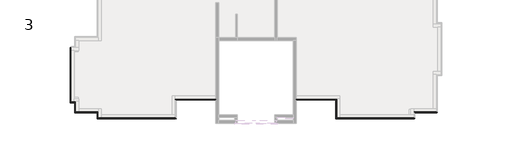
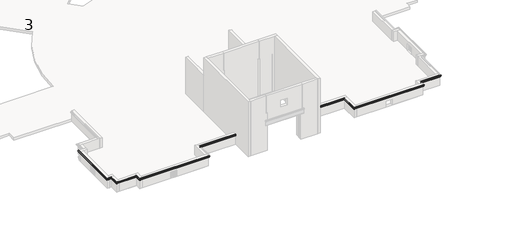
# One storey, part 7 of 12: 1 proxy.
"""IFC4 building model written with IfcOpenShell, lengths in millimetres."""

from ifc_helpers import new_model, si_unit, frame, origin, place, context, project, spatial, polyline, circle_curve, ellipse_curve, element, save
from ifc_brep_helpers import plane_surface, cylinder_surface, revolved_surface, advanced_brep

model = new_model("IFC4")

# Units and contexts
model_context = context("Model", 3, world=origin())
ifc_project = project(units=[si_unit("LENGTHUNIT", "METRE", prefix="MILLI")], contexts=[model_context])

# Site, building, storey
site = spatial("IfcSite", under=ifc_project)
building = spatial("IfcBuilding", under=site)
storey = spatial("IfcBuildingStorey", under=building, Name="3", Elevation=3581.4)

# Proxy
placement = place(None, origin())
element("IfcBuildingElementProxy", 1, Name="Cornice 3", ObjectType="Cornice 3", at=placement, inside=storey, context=model_context, shape_type="AdvancedBrep", body=[
    advanced_brep(
    [(-21342.5950906, -15278.6193311, 4572.0), (-21266.3950906, -15202.4193311, 4572.0), (-21266.3950906, -15202.4193311, 4419.6), (-21317.1950906, -15253.2193311, 4419.6), (-21317.1950906, -15253.2193311, 4438.65), (-21317.1950906, -15253.2193311, 4457.7), (-21317.1950906, -15253.2193311, 4483.1), (-21324.3388406, -15260.3630811, 4483.1), (-21342.5950906, -15278.6193311, 4512.5009114), (-21342.5950906, -15278.6193311, 4527.55), (-14941.7950906, -15278.6193311, 4572.0), (-14941.7950906, -15278.6193311, 4527.55), (-14941.7950906, -15278.6193311, 4512.5009114), (-14960.0513406, -15260.3630811, 4483.1), (-14967.1950906, -15253.2193311, 4483.1), (-14967.1950906, -15253.2193311, 4457.7), (-14967.1950906, -15253.2193311, 4438.65), (-14967.1950906, -15253.2193311, 4419.6), (-15017.9950906, -15202.4193311, 4419.6), (-15017.9950906, -15202.4193311, 4572.0)],
    [
        (0, 1),
        (1, 2),
        (2, 3),
        (3, 4),
        (4, 5, ellipse_curve(frame((-21317.1950906, -15253.2193311, 4448.175), z_axis=(-0.707106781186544, 0.7071067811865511, 0.0), x_axis=(-0.7071067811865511, -0.707106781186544, 0.0)), 13.4703842, 9.525)),
        (5, 6),
        (6, 7),
        (7, 8, ellipse_curve(frame((-21345.851489, -15281.8757296, 4490.1103895), z_axis=(0.707106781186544, -0.7071067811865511, 0.0), x_axis=(0.7071067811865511, 0.707106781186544, 0.0)), 31.9981126, 22.6260824)),
        (8, 9),
        (9, 0, ellipse_curve(frame((-21342.5950906, -15278.6193311, 4549.775), z_axis=(-0.707106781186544, 0.7071067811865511, 0.0), x_axis=(-0.7071067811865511, -0.707106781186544, 0.0)), 31.4308964, 22.225)),
        (10, 11, ellipse_curve(frame((-14941.7950906, -15278.6193311, 4549.775), z_axis=(0.7071067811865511, 0.707106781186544, 0.0), x_axis=(-0.7071067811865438, 0.7071067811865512, 0.0)), 31.4308964, 22.225)),
        (11, 12),
        (12, 13, ellipse_curve(frame((-14938.5386921, -15281.8757296, 4490.1103895), z_axis=(-0.7071067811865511, -0.707106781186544, 0.0), x_axis=(0.7071067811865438, -0.7071067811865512, 0.0)), 31.9981126, 22.6260824)),
        (13, 14),
        (14, 15),
        (15, 16, ellipse_curve(frame((-14967.1950906, -15253.2193311, 4448.175), z_axis=(0.7071067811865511, 0.707106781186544, 0.0), x_axis=(-0.7071067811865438, 0.7071067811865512, 0.0)), 13.4703842, 9.525)),
        (16, 17),
        (17, 18),
        (18, 19),
        (19, 10),
        (0, 10),
        (19, 1),
        (18, 2),
        (17, 3),
        (16, 4),
        (15, 5),
        (14, 6),
        (13, 7),
        (12, 8),
        (11, 9),
    ],
    [
        plane_surface(frame((-21266.3950906, -15202.4193311, 4114.8), z_axis=(-0.707106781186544, 0.7071067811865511, 0.0), x_axis=(0.7071067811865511, 0.707106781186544, 0.0))),
        plane_surface(frame((-15017.9950906, -15202.4193311, 4114.8), z_axis=(0.7071067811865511, 0.707106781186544, 0.0), x_axis=(-0.707106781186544, 0.7071067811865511, 0.0))),
        plane_surface(frame((-21342.5950906, -15278.6193311, 4572.0), z_axis=(0.0, 0.0, 1.0), x_axis=(1.0, 0.0, 0.0))),
        plane_surface(frame((-21266.3950906, -15202.4193311, 4572.0), z_axis=(0.0, 1.0, 0.0), x_axis=(1.0, 0.0, 0.0))),
        plane_surface(frame((-21266.3950906, -15202.4193311, 4419.6), z_axis=(0.0, 0.0, -1.0), x_axis=(1.0, 0.0, 0.0))),
        plane_surface(frame((-21317.1950906, -15253.2193311, 4419.6), z_axis=(0.0, -1.0, 0.0), x_axis=(1.0, 0.0, 0.0))),
        cylinder_surface(frame((-21266.3950906, -15253.2193311, 4448.175), z_axis=(-1.0, 0.0, 0.0), x_axis=(0.0, 1.0, 0.0)), 9.525),
        plane_surface(frame((-21317.1950906, -15253.2193311, 4457.7), z_axis=(0.0, -1.0, 0.0), x_axis=(1.0, 0.0, 0.0))),
        plane_surface(frame((-21317.1950906, -15253.2193311, 4483.1), z_axis=(0.0, 0.0, -1.0), x_axis=(1.0, 0.0, 0.0))),
        revolved_surface(polyline([(-14915.91260969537, -15259.2496472, 4490.1103895), (-21368.47757140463, -15259.2496472, 4490.1103895)]), (-21266.3950906, -15281.8757296, 4490.1103895), (1.0, 0.0, 0.0)),
        plane_surface(frame((-21342.5950906, -15278.6193311, 4512.5009114), z_axis=(0.0, -1.0, 0.0), x_axis=(1.0, 0.0, 0.0))),
        cylinder_surface(frame((-21266.3950906, -15278.6193311, 4549.775), z_axis=(-1.0, 0.0, 0.0), x_axis=(0.0, 1.0, 0.0)), 22.225),
    ],
    [
        (0, [[1, 2, 3, 4, 5, 6, 7, 8, 9, 10]]),
        (1, [[11, 12, 13, 14, 15, 16, 17, 18, 19, 20]]),
        (2, [[-1, 21, -20, 22]]),
        (3, [[-2, -22, -19, 23]]),
        (4, [[-3, -23, -18, 24]]),
        (5, [[-4, -24, -17, 25]]),
        (6, [[-5, -25, -16, 26]]),
        (7, [[-6, -26, -15, 27]]),
        (8, [[-7, -27, -14, 28]]),
        (9, [[-8, -28, -13, 29]]),
        (10, [[-9, -29, -12, 30]]),
        (11, [[-10, -30, -11, -21]]),
    ],
),
    advanced_brep(
    [(-23171.3950906, -14783.3193311, 4572.0), (-23095.1950906, -14707.1193311, 4572.0), (-23095.1950906, -14707.1193311, 4419.6), (-23145.9950906, -14757.9193311, 4419.6), (-23145.9950906, -14757.9193311, 4438.65), (-23145.9950906, -14757.9193311, 4457.7), (-23145.9950906, -14757.9193311, 4483.1), (-23153.1388406, -14765.0630811, 4483.1), (-23171.3950906, -14783.3193311, 4512.5009114), (-23171.3950906, -14783.3193311, 4527.55), (-21342.5950906, -14783.3193311, 4572.0), (-21342.5950906, -14783.3193311, 4527.55), (-21342.5950906, -14783.3193311, 4512.5009114), (-21324.3388406, -14765.0630811, 4483.1), (-21317.1950906, -14757.9193311, 4483.1), (-21317.1950906, -14757.9193311, 4457.7), (-21317.1950906, -14757.9193311, 4438.65), (-21317.1950906, -14757.9193311, 4419.6), (-21266.3950906, -14707.1193311, 4419.6), (-21266.3950906, -14707.1193311, 4572.0)],
    [
        (0, 1),
        (1, 2),
        (2, 3),
        (3, 4),
        (4, 5, ellipse_curve(frame((-23145.9950906, -14757.9193311, 4448.175), z_axis=(-0.707106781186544, 0.7071067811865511, 0.0), x_axis=(-0.707106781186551, -0.7071067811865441, 0.0)), 13.4703842, 9.525)),
        (5, 6),
        (6, 7),
        (7, 8, ellipse_curve(frame((-23174.651489, -14786.5757296, 4490.1103895), z_axis=(0.707106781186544, -0.7071067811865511, 0.0), x_axis=(0.707106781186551, 0.7071067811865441, 0.0)), 31.9981126, 22.6260824)),
        (8, 9),
        (9, 0, ellipse_curve(frame((-23171.3950906, -14783.3193311, 4549.775), z_axis=(-0.707106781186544, 0.7071067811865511, 0.0), x_axis=(-0.707106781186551, -0.7071067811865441, 0.0)), 31.4308964, 22.225)),
        (10, 11, ellipse_curve(frame((-21342.5950906, -14783.3193311, 4549.775), z_axis=(0.707106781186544, -0.7071067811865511, 0.0), x_axis=(-0.707106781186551, -0.7071067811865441, 0.0)), 31.4308964, 22.225)),
        (11, 12),
        (12, 13, ellipse_curve(frame((-21345.851489, -14786.5757296, 4490.1103895), z_axis=(-0.707106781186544, 0.7071067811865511, 0.0), x_axis=(0.707106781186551, 0.7071067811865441, 0.0)), 31.9981126, 22.6260824)),
        (13, 14),
        (14, 15),
        (15, 16, ellipse_curve(frame((-21317.1950906, -14757.9193311, 4448.175), z_axis=(0.707106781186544, -0.7071067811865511, 0.0), x_axis=(-0.707106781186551, -0.7071067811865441, 0.0)), 13.4703842, 9.525)),
        (16, 17),
        (17, 18),
        (18, 19),
        (19, 10),
        (0, 10),
        (19, 1),
        (18, 2),
        (17, 3),
        (16, 4),
        (15, 5),
        (14, 6),
        (13, 7),
        (12, 8),
        (11, 9),
    ],
    [
        plane_surface(frame((-23095.1950906, -14707.1193311, 4114.8), z_axis=(-0.707106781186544, 0.7071067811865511, 0.0), x_axis=(0.7071067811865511, 0.707106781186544, 0.0))),
        plane_surface(frame((-21266.3950906, -14707.1193311, 4724.4), z_axis=(0.707106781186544, -0.7071067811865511, 0.0), x_axis=(-0.7071067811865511, -0.707106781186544, 0.0))),
        plane_surface(frame((-23171.3950906, -14783.3193311, 4572.0), z_axis=(0.0, 0.0, 1.0), x_axis=(1.0, 0.0, 0.0))),
        plane_surface(frame((-23095.1950906, -14707.1193311, 4572.0), z_axis=(0.0, 1.0, 0.0), x_axis=(1.0, 0.0, 0.0))),
        plane_surface(frame((-23095.1950906, -14707.1193311, 4419.6), z_axis=(0.0, 0.0, -1.0), x_axis=(1.0, 0.0, 0.0))),
        plane_surface(frame((-23145.9950906, -14757.9193311, 4419.6), z_axis=(0.0, -1.0, 0.0), x_axis=(1.0, 0.0, 0.0))),
        cylinder_surface(frame((-23095.1950906, -14757.9193311, 4448.175), z_axis=(-1.0, 0.0, 0.0), x_axis=(0.0, 1.0, 0.0)), 9.525),
        plane_surface(frame((-23145.9950906, -14757.9193311, 4457.7), z_axis=(0.0, -1.0, 0.0), x_axis=(1.0, 0.0, 0.0))),
        plane_surface(frame((-23145.9950906, -14757.9193311, 4483.1), z_axis=(0.0, 0.0, -1.0), x_axis=(1.0, 0.0, 0.0))),
        revolved_surface(polyline([(-21323.22540659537, -14763.9496472, 4490.1103895), (-23197.27757140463, -14763.9496472, 4490.1103895)]), (-23095.1950906, -14786.5757296, 4490.1103895), (1.0, 0.0, 0.0)),
        plane_surface(frame((-23171.3950906, -14783.3193311, 4512.5009114), z_axis=(0.0, -1.0, 0.0), x_axis=(1.0, 0.0, 0.0))),
        cylinder_surface(frame((-23095.1950906, -14783.3193311, 4549.775), z_axis=(-1.0, 0.0, 0.0), x_axis=(0.0, 1.0, 0.0)), 22.225),
    ],
    [
        (0, [[1, 2, 3, 4, 5, 6, 7, 8, 9, 10]]),
        (1, [[11, 12, 13, 14, 15, 16, 17, 18, 19, 20]]),
        (2, [[-1, 21, -20, 22]]),
        (3, [[-2, -22, -19, 23]]),
        (4, [[-3, -23, -18, 24]]),
        (5, [[-4, -24, -17, 25]]),
        (6, [[-5, -25, -16, 26]]),
        (7, [[-6, -26, -15, 27]]),
        (8, [[-7, -27, -14, 28]]),
        (9, [[-8, -28, -13, 29]]),
        (10, [[-9, -29, -12, 30]]),
        (11, [[-10, -30, -11, -21]]),
    ],
),
    advanced_brep(
    [(-21342.5950906, -14783.3193311, 4572.0), (-21266.3950906, -14707.1193311, 4572.0), (-21266.3950906, -14707.1193311, 4419.6), (-21317.1950906, -14757.9193311, 4419.6), (-21317.1950906, -14757.9193311, 4438.65), (-21317.1950906, -14757.9193311, 4457.7), (-21317.1950906, -14757.9193311, 4483.1), (-21324.3388406, -14765.0630811, 4483.1), (-21342.5950906, -14783.3193311, 4512.5009114), (-21342.5950906, -14783.3193311, 4527.55), (-21342.5950906, -15278.6193311, 4572.0), (-21342.5950906, -15278.6193311, 4527.55), (-21342.5950906, -15278.6193311, 4512.5009114), (-21324.3388406, -15260.3630811, 4483.1), (-21317.1950906, -15253.2193311, 4483.1), (-21317.1950906, -15253.2193311, 4457.7), (-21317.1950906, -15253.2193311, 4438.65), (-21317.1950906, -15253.2193311, 4419.6), (-21266.3950906, -15202.4193311, 4419.6), (-21266.3950906, -15202.4193311, 4572.0)],
    [
        (0, 1),
        (1, 2),
        (2, 3),
        (3, 4),
        (4, 5, ellipse_curve(frame((-21317.1950906, -14757.9193311, 4448.175), z_axis=(-0.707106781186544, 0.7071067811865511, 0.0), x_axis=(0.7071067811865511, 0.7071067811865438, 0.0)), 13.4703842, 9.525)),
        (5, 6),
        (6, 7),
        (7, 8, ellipse_curve(frame((-21345.851489, -14786.5757296, 4490.1103895), z_axis=(0.707106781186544, -0.7071067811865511, 0.0), x_axis=(-0.7071067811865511, -0.7071067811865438, 0.0)), 31.9981126, 22.6260824)),
        (8, 9),
        (9, 0, ellipse_curve(frame((-21342.5950906, -14783.3193311, 4549.775), z_axis=(-0.707106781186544, 0.7071067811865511, 0.0), x_axis=(0.7071067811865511, 0.7071067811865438, 0.0)), 31.4308964, 22.225)),
        (10, 11, ellipse_curve(frame((-21342.5950906, -15278.6193311, 4549.775), z_axis=(0.707106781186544, -0.7071067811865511, 0.0), x_axis=(0.7071067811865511, 0.7071067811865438, 0.0)), 31.4308964, 22.225)),
        (11, 12),
        (12, 13, ellipse_curve(frame((-21345.851489, -15281.8757296, 4490.1103895), z_axis=(-0.707106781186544, 0.7071067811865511, 0.0), x_axis=(-0.7071067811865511, -0.7071067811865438, 0.0)), 31.9981126, 22.6260824)),
        (13, 14),
        (14, 15),
        (15, 16, ellipse_curve(frame((-21317.1950906, -15253.2193311, 4448.175), z_axis=(0.707106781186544, -0.7071067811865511, 0.0), x_axis=(0.7071067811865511, 0.7071067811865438, 0.0)), 13.4703842, 9.525)),
        (16, 17),
        (17, 18),
        (18, 19),
        (19, 10),
        (0, 10),
        (19, 1),
        (18, 2),
        (17, 3),
        (16, 4),
        (15, 5),
        (14, 6),
        (13, 7),
        (12, 8),
        (11, 9),
    ],
    [
        plane_surface(frame((-21266.3950906, -14707.1193311, 4724.4), z_axis=(-0.707106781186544, 0.7071067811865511, 0.0), x_axis=(-0.7071067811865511, -0.707106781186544, 0.0))),
        plane_surface(frame((-21266.3950906, -15202.4193311, 4114.8), z_axis=(0.707106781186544, -0.7071067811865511, 0.0), x_axis=(0.7071067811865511, 0.707106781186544, 0.0))),
        plane_surface(frame((-21342.5950906, -14783.3193311, 4572.0), z_axis=(0.0, 0.0, 1.0), x_axis=(0.0, -1.0, 0.0))),
        plane_surface(frame((-21266.3950906, -14707.1193311, 4572.0), z_axis=(1.0, 0.0, 0.0), x_axis=(0.0, -1.0, 0.0))),
        plane_surface(frame((-21266.3950906, -14707.1193311, 4419.6), z_axis=(0.0, 0.0, -1.0), x_axis=(0.0, -1.0, 0.0))),
        plane_surface(frame((-21317.1950906, -14757.9193311, 4419.6), z_axis=(-1.0, 0.0, 0.0), x_axis=(0.0, -1.0, 0.0))),
        cylinder_surface(frame((-21317.1950906, -14707.1193311, 4448.175), z_axis=(0.0, 1.0, 0.0), x_axis=(1.0, 0.0, 0.0)), 9.525),
        plane_surface(frame((-21317.1950906, -14757.9193311, 4457.7), z_axis=(-1.0, 0.0, 0.0), x_axis=(0.0, -1.0, 0.0))),
        plane_surface(frame((-21317.1950906, -14757.9193311, 4483.1), z_axis=(0.0, 0.0, -1.0), x_axis=(0.0, -1.0, 0.0))),
        revolved_surface(polyline([(-21323.225406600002, -15304.501812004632, 4490.1103895), (-21323.225406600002, -14763.949647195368, 4490.1103895)]), (-21345.851489, -14707.1193311, 4490.1103895), (0.0, -1.0, 0.0)),
        plane_surface(frame((-21342.5950906, -14783.3193311, 4512.5009114), z_axis=(-1.0, 0.0, 0.0), x_axis=(0.0, -1.0, 0.0))),
        cylinder_surface(frame((-21342.5950906, -14707.1193311, 4549.775), z_axis=(0.0, 1.0, 0.0), x_axis=(1.0, 0.0, 0.0)), 22.225),
    ],
    [
        (0, [[1, 2, 3, 4, 5, 6, 7, 8, 9, 10]]),
        (1, [[11, 12, 13, 14, 15, 16, 17, 18, 19, 20]]),
        (2, [[-1, 21, -20, 22]]),
        (3, [[-2, -22, -19, 23]]),
        (4, [[-3, -23, -18, 24]]),
        (5, [[-4, -24, -17, 25]]),
        (6, [[-5, -25, -16, 26]]),
        (7, [[-6, -26, -15, 27]]),
        (8, [[-7, -27, -14, 28]]),
        (9, [[-8, -28, -13, 29]]),
        (10, [[-9, -29, -12, 30]]),
        (11, [[-10, -30, -11, -21]]),
    ],
),
    advanced_brep(
    [(-23171.3950906, -13963.3681763, 4572.0), (-23095.1950906, -13887.1681763, 4572.0), (-23095.1950906, -13887.1681763, 4419.6), (-23145.9950906, -13937.9681763, 4419.6), (-23145.9950906, -13937.9681763, 4438.65), (-23145.9950906, -13937.9681763, 4457.7), (-23145.9950906, -13937.9681763, 4483.1), (-23153.1388406, -13945.1119263, 4483.1), (-23171.3950906, -13963.3681763, 4512.5009114), (-23171.3950906, -13963.3681763, 4527.55), (-23171.3950906, -14783.3193311, 4572.0), (-23171.3950906, -14783.3193311, 4527.55), (-23171.3950906, -14783.3193311, 4512.5009114), (-23153.1388406, -14765.0630811, 4483.1), (-23145.9950906, -14757.9193311, 4483.1), (-23145.9950906, -14757.9193311, 4457.7), (-23145.9950906, -14757.9193311, 4438.65), (-23145.9950906, -14757.9193311, 4419.6), (-23095.1950906, -14707.1193311, 4419.6), (-23095.1950906, -14707.1193311, 4572.0)],
    [
        (0, 1),
        (1, 2),
        (2, 3),
        (3, 4),
        (4, 5, ellipse_curve(frame((-23145.9950906, -13937.9681763, 4448.175), z_axis=(-0.707106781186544, 0.7071067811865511, 0.0), x_axis=(0.7071067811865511, 0.7071067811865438, 0.0)), 13.4703842, 9.525)),
        (5, 6),
        (6, 7),
        (7, 8, ellipse_curve(frame((-23174.651489, -13966.6245748, 4490.1103895), z_axis=(0.707106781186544, -0.7071067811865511, 0.0), x_axis=(-0.7071067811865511, -0.7071067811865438, 0.0)), 31.9981126, 22.6260824)),
        (8, 9),
        (9, 0, ellipse_curve(frame((-23171.3950906, -13963.3681763, 4549.775), z_axis=(-0.707106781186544, 0.7071067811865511, 0.0), x_axis=(0.7071067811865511, 0.7071067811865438, 0.0)), 31.4308964, 22.225)),
        (10, 11, ellipse_curve(frame((-23171.3950906, -14783.3193311, 4549.775), z_axis=(0.707106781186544, -0.7071067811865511, 0.0), x_axis=(0.7071067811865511, 0.7071067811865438, 0.0)), 31.4308964, 22.225)),
        (11, 12),
        (12, 13, ellipse_curve(frame((-23174.651489, -14786.5757296, 4490.1103895), z_axis=(-0.707106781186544, 0.7071067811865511, 0.0), x_axis=(-0.7071067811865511, -0.7071067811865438, 0.0)), 31.9981126, 22.6260824)),
        (13, 14),
        (14, 15),
        (15, 16, ellipse_curve(frame((-23145.9950906, -14757.9193311, 4448.175), z_axis=(0.707106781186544, -0.7071067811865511, 0.0), x_axis=(0.7071067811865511, 0.7071067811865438, 0.0)), 13.4703842, 9.525)),
        (16, 17),
        (17, 18),
        (18, 19),
        (19, 10),
        (0, 10),
        (19, 1),
        (18, 2),
        (17, 3),
        (16, 4),
        (15, 5),
        (14, 6),
        (13, 7),
        (12, 8),
        (11, 9),
    ],
    [
        plane_surface(frame((-23095.1950906, -13887.1681763, 4724.4), z_axis=(-0.707106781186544, 0.7071067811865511, 0.0), x_axis=(-0.7071067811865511, -0.707106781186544, 0.0))),
        plane_surface(frame((-23095.1950906, -14707.1193311, 4114.8), z_axis=(0.707106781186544, -0.7071067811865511, 0.0), x_axis=(0.7071067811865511, 0.707106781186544, 0.0))),
        plane_surface(frame((-23171.3950906, -13963.3681763, 4572.0), z_axis=(0.0, 0.0, 1.0), x_axis=(0.0, -1.0, 0.0))),
        plane_surface(frame((-23095.1950906, -13887.1681763, 4572.0), z_axis=(1.0, 0.0, 0.0), x_axis=(0.0, -1.0, 0.0))),
        plane_surface(frame((-23095.1950906, -13887.1681763, 4419.6), z_axis=(0.0, 0.0, -1.0), x_axis=(0.0, -1.0, 0.0))),
        plane_surface(frame((-23145.9950906, -13937.9681763, 4419.6), z_axis=(-1.0, 0.0, 0.0), x_axis=(0.0, -1.0, 0.0))),
        cylinder_surface(frame((-23145.9950906, -13887.1681763, 4448.175), z_axis=(0.0, 1.0, 0.0), x_axis=(1.0, 0.0, 0.0)), 9.525),
        plane_surface(frame((-23145.9950906, -13937.9681763, 4457.7), z_axis=(-1.0, 0.0, 0.0), x_axis=(0.0, -1.0, 0.0))),
        plane_surface(frame((-23145.9950906, -13937.9681763, 4483.1), z_axis=(0.0, 0.0, -1.0), x_axis=(0.0, -1.0, 0.0))),
        revolved_surface(polyline([(-23152.0254066, -14809.20181200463, 4490.1103895), (-23152.0254066, -13943.998492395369, 4490.1103895)]), (-23174.651489, -13887.1681763, 4490.1103895), (0.0, -1.0, 0.0)),
        plane_surface(frame((-23171.3950906, -13963.3681763, 4512.5009114), z_axis=(-1.0, 0.0, 0.0), x_axis=(0.0, -1.0, 0.0))),
        cylinder_surface(frame((-23171.3950906, -13887.1681763, 4549.775), z_axis=(0.0, 1.0, 0.0), x_axis=(1.0, 0.0, 0.0)), 22.225),
    ],
    [
        (0, [[1, 2, 3, 4, 5, 6, 7, 8, 9, 10]]),
        (1, [[11, 12, 13, 14, 15, 16, 17, 18, 19, 20]]),
        (2, [[-1, 21, -20, 22]]),
        (3, [[-2, -22, -19, 23]]),
        (4, [[-3, -23, -18, 24]]),
        (5, [[-4, -24, -17, 25]]),
        (6, [[-5, -25, -16, 26]]),
        (7, [[-6, -26, -15, 27]]),
        (8, [[-7, -27, -14, 28]]),
        (9, [[-8, -28, -13, 29]]),
        (10, [[-9, -29, -12, 30]]),
        (11, [[-10, -30, -11, -21]]),
    ],
),
    advanced_brep(
    [(-23552.5608197, -13963.3681763, 4572.0), (-23476.3608197, -13887.1681763, 4572.0), (-23476.3608197, -13887.1681763, 4419.6), (-23527.1608197, -13937.9681763, 4419.6), (-23527.1608197, -13937.9681763, 4438.65), (-23527.1608197, -13937.9681763, 4457.7), (-23527.1608197, -13937.9681763, 4483.1), (-23534.3045697, -13945.1119263, 4483.1), (-23552.5608197, -13963.3681763, 4512.5009114), (-23552.5608197, -13963.3681763, 4527.55), (-23171.3950906, -13963.3681763, 4572.0), (-23171.3950906, -13963.3681763, 4527.55), (-23171.3950906, -13963.3681763, 4512.5009114), (-23153.1388406, -13945.1119263, 4483.1), (-23145.9950906, -13937.9681763, 4483.1), (-23145.9950906, -13937.9681763, 4457.7), (-23145.9950906, -13937.9681763, 4438.65), (-23145.9950906, -13937.9681763, 4419.6), (-23095.1950906, -13887.1681763, 4419.6), (-23095.1950906, -13887.1681763, 4572.0)],
    [
        (0, 1),
        (1, 2),
        (2, 3),
        (3, 4),
        (4, 5, ellipse_curve(frame((-23527.1608197, -13937.9681763, 4448.175), z_axis=(-0.707106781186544, 0.7071067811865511, 0.0), x_axis=(-0.7071067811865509, -0.7071067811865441, 0.0)), 13.4703842, 9.525)),
        (5, 6),
        (6, 7),
        (7, 8, ellipse_curve(frame((-23555.8172182, -13966.6245748, 4490.1103895), z_axis=(0.707106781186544, -0.7071067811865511, 0.0), x_axis=(0.7071067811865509, 0.7071067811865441, 0.0)), 31.9981126, 22.6260824)),
        (8, 9),
        (9, 0, ellipse_curve(frame((-23552.5608197, -13963.3681763, 4549.775), z_axis=(-0.707106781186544, 0.7071067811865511, 0.0), x_axis=(-0.7071067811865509, -0.7071067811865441, 0.0)), 31.4308964, 22.225)),
        (10, 11, ellipse_curve(frame((-23171.3950906, -13963.3681763, 4549.775), z_axis=(0.707106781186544, -0.7071067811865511, 0.0), x_axis=(-0.7071067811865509, -0.7071067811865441, 0.0)), 31.4308964, 22.225)),
        (11, 12),
        (12, 13, ellipse_curve(frame((-23174.651489, -13966.6245748, 4490.1103895), z_axis=(-0.707106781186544, 0.7071067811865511, 0.0), x_axis=(0.7071067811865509, 0.7071067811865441, 0.0)), 31.9981126, 22.6260824)),
        (13, 14),
        (14, 15),
        (15, 16, ellipse_curve(frame((-23145.9950906, -13937.9681763, 4448.175), z_axis=(0.707106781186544, -0.7071067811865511, 0.0), x_axis=(-0.7071067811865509, -0.7071067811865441, 0.0)), 13.4703842, 9.525)),
        (16, 17),
        (17, 18),
        (18, 19),
        (19, 10),
        (0, 10),
        (19, 1),
        (18, 2),
        (17, 3),
        (16, 4),
        (15, 5),
        (14, 6),
        (13, 7),
        (12, 8),
        (11, 9),
    ],
    [
        plane_surface(frame((-23476.3608197, -13887.1681763, 4114.8), z_axis=(-0.707106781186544, 0.7071067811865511, 0.0), x_axis=(0.7071067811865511, 0.707106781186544, 0.0))),
        plane_surface(frame((-23095.1950906, -13887.1681763, 4724.4), z_axis=(0.707106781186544, -0.7071067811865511, 0.0), x_axis=(-0.7071067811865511, -0.707106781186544, 0.0))),
        plane_surface(frame((-23552.5608197, -13963.3681763, 4572.0), z_axis=(0.0, 0.0, 1.0), x_axis=(1.0, 0.0, 0.0))),
        plane_surface(frame((-23476.3608197, -13887.1681763, 4572.0), z_axis=(0.0, 1.0, 0.0), x_axis=(1.0, 0.0, 0.0))),
        plane_surface(frame((-23476.3608197, -13887.1681763, 4419.6), z_axis=(0.0, 0.0, -1.0), x_axis=(1.0, 0.0, 0.0))),
        plane_surface(frame((-23527.1608197, -13937.9681763, 4419.6), z_axis=(0.0, -1.0, 0.0), x_axis=(1.0, 0.0, 0.0))),
        cylinder_surface(frame((-23476.3608197, -13937.9681763, 4448.175), z_axis=(-1.0, 0.0, 0.0), x_axis=(0.0, 1.0, 0.0)), 9.525),
        plane_surface(frame((-23527.1608197, -13937.9681763, 4457.7), z_axis=(0.0, -1.0, 0.0), x_axis=(1.0, 0.0, 0.0))),
        plane_surface(frame((-23527.1608197, -13937.9681763, 4483.1), z_axis=(0.0, 0.0, -1.0), x_axis=(1.0, 0.0, 0.0))),
        revolved_surface(polyline([(-23152.02540659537, -13943.9984924, 4490.1103895), (-23578.44330060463, -13943.9984924, 4490.1103895)]), (-23476.3608197, -13966.6245748, 4490.1103895), (1.0, 0.0, 0.0)),
        plane_surface(frame((-23552.5608197, -13963.3681763, 4512.5009114), z_axis=(0.0, -1.0, 0.0), x_axis=(1.0, 0.0, 0.0))),
        cylinder_surface(frame((-23476.3608197, -13963.3681763, 4549.775), z_axis=(-1.0, 0.0, 0.0), x_axis=(0.0, 1.0, 0.0)), 22.225),
    ],
    [
        (0, [[1, 2, 3, 4, 5, 6, 7, 8, 9, 10]]),
        (1, [[11, 12, 13, 14, 15, 16, 17, 18, 19, 20]]),
        (2, [[-1, 21, -20, 22]]),
        (3, [[-2, -22, -19, 23]]),
        (4, [[-3, -23, -18, 24]]),
        (5, [[-4, -24, -17, 25]]),
        (6, [[-5, -25, -16, 26]]),
        (7, [[-6, -26, -15, 27]]),
        (8, [[-7, -27, -14, 28]]),
        (9, [[-8, -28, -13, 29]]),
        (10, [[-9, -29, -12, 30]]),
        (11, [[-10, -30, -11, -21]]),
    ],
),
    advanced_brep(
    [(-23552.5608197, -9467.5681763, 4572.0), (-23476.3608197, -9467.5681763, 4572.0), (-23476.3608197, -9467.5681763, 4419.6), (-23527.1608197, -9467.5681763, 4419.6), (-23527.1608197, -9467.5681763, 4438.65), (-23527.1608197, -9467.5681763, 4457.7), (-23527.1608197, -9467.5681763, 4483.1), (-23534.3045697, -9467.5681763, 4483.1), (-23552.5608197, -9467.5681763, 4512.5009114), (-23552.5608197, -9467.5681763, 4527.55), (-23552.5608197, -13963.3681763, 4572.0), (-23552.5608197, -13963.3681763, 4527.55), (-23552.5608197, -13963.3681763, 4512.5009114), (-23534.3045697, -13945.1119263, 4483.1), (-23527.1608197, -13937.9681763, 4483.1), (-23527.1608197, -13937.9681763, 4457.7), (-23527.1608197, -13937.9681763, 4438.65), (-23527.1608197, -13937.9681763, 4419.6), (-23476.3608197, -13887.1681763, 4419.6), (-23476.3608197, -13887.1681763, 4572.0)],
    [
        (0, 1),
        (1, 2),
        (2, 3),
        (3, 4),
        (4, 5, circle_curve(frame((-23527.1608197, -9467.5681763, 4448.175), z_axis=(0.0, 1.0, 0.0), x_axis=(1.0, 0.0, 0.0)), 9.525)),
        (5, 6),
        (6, 7),
        (7, 8, circle_curve(frame((-23555.8172182, -9467.5681763, 4490.1103895), z_axis=(0.0, -1.0, 0.0), x_axis=(1.0, 0.0, 0.0)), 22.6260824)),
        (8, 9),
        (9, 0, circle_curve(frame((-23552.5608197, -9467.5681763, 4549.775), z_axis=(0.0, 1.0, 0.0), x_axis=(1.0, 0.0, 0.0)), 22.225)),
        (10, 11, ellipse_curve(frame((-23552.5608197, -13963.3681763, 4549.775), z_axis=(0.707106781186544, -0.7071067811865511, 0.0), x_axis=(0.7071067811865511, 0.7071067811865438, 0.0)), 31.4308964, 22.225)),
        (11, 12),
        (12, 13, ellipse_curve(frame((-23555.8172182, -13966.6245748, 4490.1103895), z_axis=(-0.707106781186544, 0.7071067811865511, 0.0), x_axis=(-0.7071067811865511, -0.7071067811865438, 0.0)), 31.9981126, 22.6260824)),
        (13, 14),
        (14, 15),
        (15, 16, ellipse_curve(frame((-23527.1608197, -13937.9681763, 4448.175), z_axis=(0.707106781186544, -0.7071067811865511, 0.0), x_axis=(0.7071067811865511, 0.7071067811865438, 0.0)), 13.4703842, 9.525)),
        (16, 17),
        (17, 18),
        (18, 19),
        (19, 10),
        (0, 10),
        (19, 1),
        (18, 2),
        (17, 3),
        (16, 4),
        (15, 5),
        (14, 6),
        (13, 7),
        (12, 8),
        (11, 9),
    ],
    [
        plane_surface(frame((-23649.3290268, -9467.5681763, 4419.6), z_axis=(0.0, 1.0, 0.0), x_axis=(0.0, 0.0, -1.0))),
        plane_surface(frame((-23476.3608197, -13887.1681763, 4114.8), z_axis=(0.707106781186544, -0.7071067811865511, 0.0), x_axis=(0.7071067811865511, 0.707106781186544, 0.0))),
        plane_surface(frame((-23552.5608197, -9467.5681763, 4572.0), z_axis=(0.0, 0.0, 1.0), x_axis=(0.0, -1.0, 0.0))),
        plane_surface(frame((-23476.3608197, -9467.5681763, 4572.0), z_axis=(1.0, 0.0, 0.0), x_axis=(0.0, -1.0, 0.0))),
        plane_surface(frame((-23476.3608197, -9467.5681763, 4419.6), z_axis=(0.0, 0.0, -1.0), x_axis=(0.0, -1.0, 0.0))),
        plane_surface(frame((-23527.1608197, -9467.5681763, 4419.6), z_axis=(-1.0, 0.0, 0.0), x_axis=(0.0, -1.0, 0.0))),
        cylinder_surface(frame((-23527.1608197, -9467.5681763, 4448.175), z_axis=(0.0, 1.0, 0.0), x_axis=(1.0, 0.0, 0.0)), 9.525),
        plane_surface(frame((-23527.1608197, -9467.5681763, 4457.7), z_axis=(-1.0, 0.0, 0.0), x_axis=(0.0, -1.0, 0.0))),
        plane_surface(frame((-23527.1608197, -9467.5681763, 4483.1), z_axis=(0.0, 0.0, -1.0), x_axis=(0.0, -1.0, 0.0))),
        revolved_surface(polyline([(-23533.191135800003, -13989.25065720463, 4490.1103895), (-23533.191135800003, -9467.5681763, 4490.1103895)]), (-23555.8172182, -9467.5681763, 4490.1103895), (0.0, -1.0, 0.0)),
        plane_surface(frame((-23552.5608197, -9467.5681763, 4512.5009114), z_axis=(-1.0, 0.0, 0.0), x_axis=(0.0, -1.0, 0.0))),
        cylinder_surface(frame((-23552.5608197, -9467.5681763, 4549.775), z_axis=(0.0, 1.0, 0.0), x_axis=(1.0, 0.0, 0.0)), 22.225),
    ],
    [
        (0, [[1, 2, 3, 4, 5, 6, 7, 8, 9, 10]]),
        (1, [[11, 12, 13, 14, 15, 16, 17, 18, 19, 20]]),
        (2, [[-1, 21, -20, 22]]),
        (3, [[-2, -22, -19, 23]]),
        (4, [[-3, -23, -18, 24]]),
        (5, [[-4, -24, -17, 25]]),
        (6, [[-5, -25, -16, 26]]),
        (7, [[-6, -26, -15, 27]]),
        (8, [[-7, -27, -14, 28]]),
        (9, [[-8, -28, -13, 29]]),
        (10, [[-9, -29, -12, 30]]),
        (11, [[-10, -30, -11, -21]]),
    ],
),
    advanced_brep(
    [(-14941.7950906, -13753.8181763, 4572.0), (-15017.9950906, -13677.6181763, 4572.0), (-15017.9950906, -13677.6181763, 4419.6), (-14967.1950906, -13728.4181763, 4419.6), (-14967.1950906, -13728.4181763, 4438.65), (-14967.1950906, -13728.4181763, 4457.7), (-14967.1950906, -13728.4181763, 4483.1), (-14960.0513406, -13735.5619263, 4483.1), (-14941.7950906, -13753.8181763, 4512.5009114), (-14941.7950906, -13753.8181763, 4527.55), (-11665.1950906, -13753.8181763, 4572.0), (-11665.1950906, -13753.8181763, 4527.55), (-11665.1950906, -13753.8181763, 4512.5009114), (-11665.1950906, -13735.5619263, 4483.1), (-11665.1950906, -13728.4181763, 4483.1), (-11665.1950906, -13728.4181763, 4457.7), (-11665.1950906, -13728.4181763, 4438.65), (-11665.1950906, -13728.4181763, 4419.6), (-11665.1950906, -13677.6181763, 4419.6), (-11665.1950906, -13677.6181763, 4572.0)],
    [
        (0, 1),
        (1, 2),
        (2, 3),
        (3, 4),
        (4, 5, ellipse_curve(frame((-14967.1950906, -13728.4181763, 4448.175), z_axis=(-0.7071067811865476, -0.7071067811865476, 0.0), x_axis=(-0.7071067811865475, 0.7071067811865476, 0.0)), 13.4703842, 9.525)),
        (5, 6),
        (6, 7),
        (7, 8, ellipse_curve(frame((-14938.5386921, -13757.0745748, 4490.1103895), z_axis=(0.7071067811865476, 0.7071067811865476, 0.0), x_axis=(0.7071067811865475, -0.7071067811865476, 0.0)), 31.9981126, 22.6260824)),
        (8, 9),
        (9, 0, ellipse_curve(frame((-14941.7950906, -13753.8181763, 4549.775), z_axis=(-0.7071067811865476, -0.7071067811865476, 0.0), x_axis=(-0.7071067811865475, 0.7071067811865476, 0.0)), 31.4308964, 22.225)),
        (10, 11, circle_curve(frame((-11665.1950906, -13753.8181763, 4549.775), z_axis=(1.0, 0.0, 0.0), x_axis=(0.0, 1.0, 0.0)), 22.225)),
        (11, 12),
        (12, 13, circle_curve(frame((-11665.1950906, -13757.0745748, 4490.1103895), z_axis=(-1.0, 0.0, 0.0), x_axis=(0.0, 1.0, 0.0)), 22.6260824)),
        (13, 14),
        (14, 15),
        (15, 16, circle_curve(frame((-11665.1950906, -13728.4181763, 4448.175), z_axis=(1.0, 0.0, 0.0), x_axis=(0.0, 1.0, 0.0)), 9.525)),
        (16, 17),
        (17, 18),
        (18, 19),
        (19, 10),
        (0, 10),
        (19, 1),
        (18, 2),
        (17, 3),
        (16, 4),
        (15, 5),
        (14, 6),
        (13, 7),
        (12, 8),
        (11, 9),
    ],
    [
        plane_surface(frame((-15017.9950906, -13677.6181763, 4724.4), z_axis=(-0.7071067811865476, -0.7071067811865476, 0.0), x_axis=(0.7071067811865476, -0.7071067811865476, 0.0))),
        plane_surface(frame((-11665.1950906, -13677.6181763, 4246.631793), z_axis=(1.0, 0.0, 0.0), x_axis=(0.0, 1.0, 0.0))),
        plane_surface(frame((-14941.7950906, -13753.8181763, 4572.0), z_axis=(0.0, 0.0, 1.0), x_axis=(1.0, 0.0, 0.0))),
        plane_surface(frame((-15017.9950906, -13677.6181763, 4572.0), z_axis=(0.0, 1.0, 0.0), x_axis=(1.0, 0.0, 0.0))),
        plane_surface(frame((-15017.9950906, -13677.6181763, 4419.6), z_axis=(0.0, 0.0, -1.0), x_axis=(1.0, 0.0, 0.0))),
        plane_surface(frame((-14967.1950906, -13728.4181763, 4419.6), z_axis=(0.0, -1.0, 0.0), x_axis=(1.0, 0.0, 0.0))),
        cylinder_surface(frame((-15017.9950906, -13728.4181763, 4448.175), z_axis=(-1.0, 0.0, 0.0), x_axis=(0.0, 1.0, 0.0)), 9.525),
        plane_surface(frame((-14967.1950906, -13728.4181763, 4457.7), z_axis=(0.0, -1.0, 0.0), x_axis=(1.0, 0.0, 0.0))),
        plane_surface(frame((-14967.1950906, -13728.4181763, 4483.1), z_axis=(0.0, 0.0, -1.0), x_axis=(1.0, 0.0, 0.0))),
        revolved_surface(polyline([(-11665.1950906, -13734.4484924, 4490.1103895), (-14961.164774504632, -13734.4484924, 4490.1103895)]), (-15017.9950906, -13757.0745748, 4490.1103895), (1.0, 0.0, 0.0)),
        plane_surface(frame((-14941.7950906, -13753.8181763, 4512.5009114), z_axis=(0.0, -1.0, 0.0), x_axis=(1.0, 0.0, 0.0))),
        cylinder_surface(frame((-15017.9950906, -13753.8181763, 4549.775), z_axis=(-1.0, 0.0, 0.0), x_axis=(0.0, 1.0, 0.0)), 22.225),
    ],
    [
        (0, [[1, 2, 3, 4, 5, 6, 7, 8, 9, 10]]),
        (1, [[11, 12, 13, 14, 15, 16, 17, 18, 19, 20]]),
        (2, [[-1, 21, -20, 22]]),
        (3, [[-2, -22, -19, 23]]),
        (4, [[-3, -23, -18, 24]]),
        (5, [[-4, -24, -17, 25]]),
        (6, [[-5, -25, -16, 26]]),
        (7, [[-6, -26, -15, 27]]),
        (8, [[-7, -27, -14, 28]]),
        (9, [[-8, -28, -13, 29]]),
        (10, [[-9, -29, -12, 30]]),
        (11, [[-10, -30, -11, -21]]),
    ],
),
    advanced_brep(
    [(-5111.9950906, -13753.8181763, 4572.0), (-5111.9950906, -13677.6181763, 4572.0), (-5111.9950906, -13677.6181763, 4419.6), (-5111.9950906, -13728.4181763, 4419.6), (-5111.9950906, -13728.4181763, 4438.65), (-5111.9950906, -13728.4181763, 4457.7), (-5111.9950906, -13728.4181763, 4483.1), (-5111.9950906, -13735.5619263, 4483.1), (-5111.9950906, -13753.8181763, 4512.5009114), (-5111.9950906, -13753.8181763, 4527.55), (-1835.3950906, -13753.8181763, 4572.0), (-1835.3950906, -13753.8181763, 4527.55), (-1835.3950906, -13753.8181763, 4512.5009114), (-1817.1388406, -13735.5619263, 4483.1), (-1809.9950906, -13728.4181763, 4483.1), (-1809.9950906, -13728.4181763, 4457.7), (-1809.9950906, -13728.4181763, 4438.65), (-1809.9950906, -13728.4181763, 4419.6), (-1759.1950906, -13677.6181763, 4419.6), (-1759.1950906, -13677.6181763, 4572.0)],
    [
        (0, 1),
        (1, 2),
        (2, 3),
        (3, 4),
        (4, 5, circle_curve(frame((-5111.9950906, -13728.4181763, 4448.175), z_axis=(-1.0, 0.0, 0.0), x_axis=(0.0, 1.0, 0.0)), 9.525)),
        (5, 6),
        (6, 7),
        (7, 8, circle_curve(frame((-5111.9950906, -13757.0745748, 4490.1103895), z_axis=(1.0, 0.0, 0.0), x_axis=(0.0, 1.0, 0.0)), 22.6260824)),
        (8, 9),
        (9, 0, circle_curve(frame((-5111.9950906, -13753.8181763, 4549.775), z_axis=(-1.0, 0.0, 0.0), x_axis=(0.0, 1.0, 0.0)), 22.225)),
        (10, 11, ellipse_curve(frame((-1835.3950906, -13753.8181763, 4549.775), z_axis=(0.7071067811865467, -0.7071067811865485, 0.0), x_axis=(-0.7071067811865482, -0.7071067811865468, 0.0)), 31.4308964, 22.225)),
        (11, 12),
        (12, 13, ellipse_curve(frame((-1838.651489, -13757.0745748, 4490.1103895), z_axis=(-0.7071067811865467, 0.7071067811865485, 0.0), x_axis=(0.7071067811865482, 0.7071067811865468, 0.0)), 31.9981126, 22.6260824)),
        (13, 14),
        (14, 15),
        (15, 16, ellipse_curve(frame((-1809.9950906, -13728.4181763, 4448.175), z_axis=(0.7071067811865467, -0.7071067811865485, 0.0), x_axis=(-0.7071067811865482, -0.7071067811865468, 0.0)), 13.4703842, 9.525)),
        (16, 17),
        (17, 18),
        (18, 19),
        (19, 10),
        (0, 10),
        (19, 1),
        (18, 2),
        (17, 3),
        (16, 4),
        (15, 5),
        (14, 6),
        (13, 7),
        (12, 8),
        (11, 9),
    ],
    [
        plane_surface(frame((-5111.9950906, -13677.6181763, 4246.631793), z_axis=(-1.0, 0.0, 0.0), x_axis=(0.0, 1.0, 0.0))),
        plane_surface(frame((-1759.1950906, -13677.6181763, 4724.4), z_axis=(0.7071067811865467, -0.7071067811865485, 0.0), x_axis=(-0.7071067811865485, -0.7071067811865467, 0.0))),
        plane_surface(frame((-5111.9950906, -13753.8181763, 4572.0), z_axis=(0.0, 0.0, 1.0), x_axis=(1.0, 0.0, 0.0))),
        plane_surface(frame((-5111.9950906, -13677.6181763, 4572.0), z_axis=(0.0, 1.0, 0.0), x_axis=(1.0, 0.0, 0.0))),
        plane_surface(frame((-5111.9950906, -13677.6181763, 4419.6), z_axis=(0.0, 0.0, -1.0), x_axis=(1.0, 0.0, 0.0))),
        plane_surface(frame((-5111.9950906, -13728.4181763, 4419.6), z_axis=(0.0, -1.0, 0.0), x_axis=(1.0, 0.0, 0.0))),
        cylinder_surface(frame((-5111.9950906, -13728.4181763, 4448.175), z_axis=(-1.0, 0.0, 0.0), x_axis=(0.0, 1.0, 0.0)), 9.525),
        plane_surface(frame((-5111.9950906, -13728.4181763, 4457.7), z_axis=(0.0, -1.0, 0.0), x_axis=(1.0, 0.0, 0.0))),
        plane_surface(frame((-5111.9950906, -13728.4181763, 4483.1), z_axis=(0.0, 0.0, -1.0), x_axis=(1.0, 0.0, 0.0))),
        revolved_surface(polyline([(-1816.025406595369, -13734.4484924, 4490.1103895), (-5111.9950906, -13734.4484924, 4490.1103895)]), (-5111.9950906, -13757.0745748, 4490.1103895), (1.0, 0.0, 0.0)),
        plane_surface(frame((-5111.9950906, -13753.8181763, 4512.5009114), z_axis=(0.0, -1.0, 0.0), x_axis=(1.0, 0.0, 0.0))),
        cylinder_surface(frame((-5111.9950906, -13753.8181763, 4549.775), z_axis=(-1.0, 0.0, 0.0), x_axis=(0.0, 1.0, 0.0)), 22.225),
    ],
    [
        (0, [[1, 2, 3, 4, 5, 6, 7, 8, 9, 10]]),
        (1, [[11, 12, 13, 14, 15, 16, 17, 18, 19, 20]]),
        (2, [[-1, 21, -20, 22]]),
        (3, [[-2, -22, -19, 23]]),
        (4, [[-3, -23, -18, 24]]),
        (5, [[-4, -24, -17, 25]]),
        (6, [[-5, -25, -16, 26]]),
        (7, [[-6, -26, -15, 27]]),
        (8, [[-7, -27, -14, 28]]),
        (9, [[-8, -28, -13, 29]]),
        (10, [[-9, -29, -12, 30]]),
        (11, [[-10, -30, -11, -21]]),
    ],
),
    advanced_brep(
    [(-1835.3950906, -15278.6193311, 4572.0), (-1759.1950906, -15202.4193311, 4572.0), (-1759.1950906, -15202.4193311, 4419.6), (-1809.9950906, -15253.2193311, 4419.6), (-1809.9950906, -15253.2193311, 4438.65), (-1809.9950906, -15253.2193311, 4457.7), (-1809.9950906, -15253.2193311, 4483.1), (-1817.1388406, -15260.3630811, 4483.1), (-1835.3950906, -15278.6193311, 4512.5009114), (-1835.3950906, -15278.6193311, 4527.55), (4565.4049094, -15278.6193311, 4572.0), (4565.4049094, -15278.6193311, 4527.55), (4565.4049094, -15278.6193311, 4512.5009114), (4547.1486594, -15260.3630811, 4483.1), (4540.0049094, -15253.2193311, 4483.1), (4540.0049094, -15253.2193311, 4457.7), (4540.0049094, -15253.2193311, 4438.65), (4540.0049094, -15253.2193311, 4419.6), (4489.2049094, -15202.4193311, 4419.6), (4489.2049094, -15202.4193311, 4572.0)],
    [
        (0, 1),
        (1, 2),
        (2, 3),
        (3, 4),
        (4, 5, ellipse_curve(frame((-1809.9950906, -15253.2193311, 4448.175), z_axis=(-0.7071067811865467, 0.7071067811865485, 0.0), x_axis=(-0.7071067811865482, -0.7071067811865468, 0.0)), 13.4703842, 9.525)),
        (5, 6),
        (6, 7),
        (7, 8, ellipse_curve(frame((-1838.651489, -15281.8757296, 4490.1103895), z_axis=(0.7071067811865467, -0.7071067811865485, 0.0), x_axis=(0.7071067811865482, 0.7071067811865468, 0.0)), 31.9981126, 22.6260824)),
        (8, 9),
        (9, 0, ellipse_curve(frame((-1835.3950906, -15278.6193311, 4549.775), z_axis=(-0.7071067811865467, 0.7071067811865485, 0.0), x_axis=(-0.7071067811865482, -0.7071067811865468, 0.0)), 31.4308964, 22.225)),
        (10, 11, ellipse_curve(frame((4565.4049094, -15278.6193311, 4549.775), z_axis=(0.7071067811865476, 0.7071067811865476, 0.0), x_axis=(-0.7071067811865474, 0.7071067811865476, 0.0)), 31.4308964, 22.225)),
        (11, 12),
        (12, 13, ellipse_curve(frame((4568.6613079, -15281.8757296, 4490.1103895), z_axis=(-0.7071067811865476, -0.7071067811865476, 0.0), x_axis=(0.7071067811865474, -0.7071067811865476, 0.0)), 31.9981126, 22.6260824)),
        (13, 14),
        (14, 15),
        (15, 16, ellipse_curve(frame((4540.0049094, -15253.2193311, 4448.175), z_axis=(0.7071067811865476, 0.7071067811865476, 0.0), x_axis=(-0.7071067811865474, 0.7071067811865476, 0.0)), 13.4703842, 9.525)),
        (16, 17),
        (17, 18),
        (18, 19),
        (19, 10),
        (0, 10),
        (19, 1),
        (18, 2),
        (17, 3),
        (16, 4),
        (15, 5),
        (14, 6),
        (13, 7),
        (12, 8),
        (11, 9),
    ],
    [
        plane_surface(frame((-1759.1950906, -15202.4193311, 4114.8), z_axis=(-0.7071067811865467, 0.7071067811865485, 0.0), x_axis=(0.7071067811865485, 0.7071067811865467, 0.0))),
        plane_surface(frame((4489.2049094, -15202.4193311, 4114.8), z_axis=(0.7071067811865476, 0.7071067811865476, 0.0), x_axis=(-0.7071067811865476, 0.7071067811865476, 0.0))),
        plane_surface(frame((-1835.3950906, -15278.6193311, 4572.0), z_axis=(0.0, 0.0, 1.0), x_axis=(1.0, 0.0, 0.0))),
        plane_surface(frame((-1759.1950906, -15202.4193311, 4572.0), z_axis=(0.0, 1.0, 0.0), x_axis=(1.0, 0.0, 0.0))),
        plane_surface(frame((-1759.1950906, -15202.4193311, 4419.6), z_axis=(0.0, 0.0, -1.0), x_axis=(1.0, 0.0, 0.0))),
        plane_surface(frame((-1809.9950906, -15253.2193311, 4419.6), z_axis=(0.0, -1.0, 0.0), x_axis=(1.0, 0.0, 0.0))),
        cylinder_surface(frame((-1759.1950906, -15253.2193311, 4448.175), z_axis=(-1.0, 0.0, 0.0), x_axis=(0.0, 1.0, 0.0)), 9.525),
        plane_surface(frame((-1809.9950906, -15253.2193311, 4457.7), z_axis=(0.0, -1.0, 0.0), x_axis=(1.0, 0.0, 0.0))),
        plane_surface(frame((-1809.9950906, -15253.2193311, 4483.1), z_axis=(0.0, 0.0, -1.0), x_axis=(1.0, 0.0, 0.0))),
        revolved_surface(polyline([(4591.28739030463, -15259.2496472, 4490.1103895), (-1861.2775714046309, -15259.2496472, 4490.1103895)]), (-1759.1950906, -15281.8757296, 4490.1103895), (1.0, 0.0, 0.0)),
        plane_surface(frame((-1835.3950906, -15278.6193311, 4512.5009114), z_axis=(0.0, -1.0, 0.0), x_axis=(1.0, 0.0, 0.0))),
        cylinder_surface(frame((-1759.1950906, -15278.6193311, 4549.775), z_axis=(-1.0, 0.0, 0.0), x_axis=(0.0, 1.0, 0.0)), 22.225),
    ],
    [
        (0, [[1, 2, 3, 4, 5, 6, 7, 8, 9, 10]]),
        (1, [[11, 12, 13, 14, 15, 16, 17, 18, 19, 20]]),
        (2, [[-1, 21, -20, 22]]),
        (3, [[-2, -22, -19, 23]]),
        (4, [[-3, -23, -18, 24]]),
        (5, [[-4, -24, -17, 25]]),
        (6, [[-5, -25, -16, 26]]),
        (7, [[-6, -26, -15, 27]]),
        (8, [[-7, -27, -14, 28]]),
        (9, [[-8, -28, -13, 29]]),
        (10, [[-9, -29, -12, 30]]),
        (11, [[-10, -30, -11, -21]]),
    ],
),
    advanced_brep(
    [(-1835.3950906, -13753.8181763, 4572.0), (-1759.1950906, -13677.6181763, 4572.0), (-1759.1950906, -13677.6181763, 4419.6), (-1809.9950906, -13728.4181763, 4419.6), (-1809.9950906, -13728.4181763, 4438.65), (-1809.9950906, -13728.4181763, 4457.7), (-1809.9950906, -13728.4181763, 4483.1), (-1817.1388406, -13735.5619263, 4483.1), (-1835.3950906, -13753.8181763, 4512.5009114), (-1835.3950906, -13753.8181763, 4527.55), (-1835.3950906, -15278.6193311, 4572.0), (-1835.3950906, -15278.6193311, 4527.55), (-1835.3950906, -15278.6193311, 4512.5009114), (-1817.1388406, -15260.3630811, 4483.1), (-1809.9950906, -15253.2193311, 4483.1), (-1809.9950906, -15253.2193311, 4457.7), (-1809.9950906, -15253.2193311, 4438.65), (-1809.9950906, -15253.2193311, 4419.6), (-1759.1950906, -15202.4193311, 4419.6), (-1759.1950906, -15202.4193311, 4572.0)],
    [
        (0, 1),
        (1, 2),
        (2, 3),
        (3, 4),
        (4, 5, ellipse_curve(frame((-1809.9950906, -13728.4181763, 4448.175), z_axis=(-0.7071067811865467, 0.7071067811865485, 0.0), x_axis=(0.7071067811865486, 0.7071067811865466, 0.0)), 13.4703842, 9.525)),
        (5, 6),
        (6, 7),
        (7, 8, ellipse_curve(frame((-1838.651489, -13757.0745748, 4490.1103895), z_axis=(0.7071067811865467, -0.7071067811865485, 0.0), x_axis=(-0.7071067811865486, -0.7071067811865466, 0.0)), 31.9981126, 22.6260824)),
        (8, 9),
        (9, 0, ellipse_curve(frame((-1835.3950906, -13753.8181763, 4549.775), z_axis=(-0.7071067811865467, 0.7071067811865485, 0.0), x_axis=(0.7071067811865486, 0.7071067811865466, 0.0)), 31.4308964, 22.225)),
        (10, 11, ellipse_curve(frame((-1835.3950906, -15278.6193311, 4549.775), z_axis=(0.7071067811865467, -0.7071067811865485, 0.0), x_axis=(0.7071067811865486, 0.7071067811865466, 0.0)), 31.4308964, 22.225)),
        (11, 12),
        (12, 13, ellipse_curve(frame((-1838.651489, -15281.8757296, 4490.1103895), z_axis=(-0.7071067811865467, 0.7071067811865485, 0.0), x_axis=(-0.7071067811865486, -0.7071067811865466, 0.0)), 31.9981126, 22.6260824)),
        (13, 14),
        (14, 15),
        (15, 16, ellipse_curve(frame((-1809.9950906, -15253.2193311, 4448.175), z_axis=(0.7071067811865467, -0.7071067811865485, 0.0), x_axis=(0.7071067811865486, 0.7071067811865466, 0.0)), 13.4703842, 9.525)),
        (16, 17),
        (17, 18),
        (18, 19),
        (19, 10),
        (0, 10),
        (19, 1),
        (18, 2),
        (17, 3),
        (16, 4),
        (15, 5),
        (14, 6),
        (13, 7),
        (12, 8),
        (11, 9),
    ],
    [
        plane_surface(frame((-1759.1950906, -13677.6181763, 4724.4), z_axis=(-0.7071067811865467, 0.7071067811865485, 0.0), x_axis=(-0.7071067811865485, -0.7071067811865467, 0.0))),
        plane_surface(frame((-1759.1950906, -15202.4193311, 4114.8), z_axis=(0.7071067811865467, -0.7071067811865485, 0.0), x_axis=(0.7071067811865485, 0.7071067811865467, 0.0))),
        plane_surface(frame((-1835.3950906, -13753.8181763, 4572.0), z_axis=(0.0, 0.0, 1.0), x_axis=(0.0, -1.0, 0.0))),
        plane_surface(frame((-1759.1950906, -13677.6181763, 4572.0), z_axis=(1.0, 0.0, 0.0), x_axis=(0.0, -1.0, 0.0))),
        plane_surface(frame((-1759.1950906, -13677.6181763, 4419.6), z_axis=(0.0, 0.0, -1.0), x_axis=(0.0, -1.0, 0.0))),
        plane_surface(frame((-1809.9950906, -13728.4181763, 4419.6), z_axis=(-1.0, 0.0, 0.0), x_axis=(0.0, -1.0, 0.0))),
        cylinder_surface(frame((-1809.9950906, -13677.6181763, 4448.175), z_axis=(0.0, 1.0, 0.0), x_axis=(1.0, 0.0, 0.0)), 9.525),
        plane_surface(frame((-1809.9950906, -13728.4181763, 4457.7), z_axis=(-1.0, 0.0, 0.0), x_axis=(0.0, -1.0, 0.0))),
        plane_surface(frame((-1809.9950906, -13728.4181763, 4483.1), z_axis=(0.0, 0.0, -1.0), x_axis=(0.0, -1.0, 0.0))),
        revolved_surface(polyline([(-1816.0254066, -15304.501812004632, 4490.1103895), (-1816.0254066, -13734.44849239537, 4490.1103895)]), (-1838.651489, -13677.6181763, 4490.1103895), (0.0, -1.0, 0.0)),
        plane_surface(frame((-1835.3950906, -13753.8181763, 4512.5009114), z_axis=(-1.0, 0.0, 0.0), x_axis=(0.0, -1.0, 0.0))),
        cylinder_surface(frame((-1835.3950906, -13677.6181763, 4549.775), z_axis=(0.0, 1.0, 0.0), x_axis=(1.0, 0.0, 0.0)), 22.225),
    ],
    [
        (0, [[1, 2, 3, 4, 5, 6, 7, 8, 9, 10]]),
        (1, [[11, 12, 13, 14, 15, 16, 17, 18, 19, 20]]),
        (2, [[-1, 21, -20, 22]]),
        (3, [[-2, -22, -19, 23]]),
        (4, [[-3, -23, -18, 24]]),
        (5, [[-4, -24, -17, 25]]),
        (6, [[-5, -25, -16, 26]]),
        (7, [[-6, -26, -15, 27]]),
        (8, [[-7, -27, -14, 28]]),
        (9, [[-8, -28, -13, 29]]),
        (10, [[-9, -29, -12, 30]]),
        (11, [[-10, -30, -11, -21]]),
    ],
),
    advanced_brep(
    [(4565.4049094, -14783.3193311, 4572.0), (4489.2049094, -14707.1193311, 4572.0), (4489.2049094, -14707.1193311, 4419.6), (4540.0049094, -14757.9193311, 4419.6), (4540.0049094, -14757.9193311, 4438.65), (4540.0049094, -14757.9193311, 4457.7), (4540.0049094, -14757.9193311, 4483.1), (4547.1486594, -14765.0630811, 4483.1), (4565.4049094, -14783.3193311, 4512.5009114), (4565.4049094, -14783.3193311, 4527.55), (6393.2878641, -14783.3193311, 4572.0), (6393.2878641, -14783.3193311, 4527.55), (6393.2878641, -14783.3193311, 4512.5009114), (6375.0316141, -14765.0630811, 4483.1), (6367.8878641, -14757.9193311, 4483.1), (6367.8878641, -14757.9193311, 4457.7), (6367.8878641, -14757.9193311, 4438.65), (6367.8878641, -14757.9193311, 4419.6), (6317.0878641, -14707.1193311, 4419.6), (6317.0878641, -14707.1193311, 4572.0)],
    [
        (0, 1),
        (1, 2),
        (2, 3),
        (3, 4),
        (4, 5, ellipse_curve(frame((4540.0049094, -14757.9193311, 4448.175), z_axis=(-0.7071067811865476, -0.7071067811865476, 0.0), x_axis=(-0.7071067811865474, 0.7071067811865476, 0.0)), 13.4703842, 9.525)),
        (5, 6),
        (6, 7),
        (7, 8, ellipse_curve(frame((4568.6613079, -14786.5757296, 4490.1103895), z_axis=(0.7071067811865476, 0.7071067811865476, 0.0), x_axis=(0.7071067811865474, -0.7071067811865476, 0.0)), 31.9981126, 22.6260824)),
        (8, 9),
        (9, 0, ellipse_curve(frame((4565.4049094, -14783.3193311, 4549.775), z_axis=(-0.7071067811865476, -0.7071067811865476, 0.0), x_axis=(-0.7071067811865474, 0.7071067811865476, 0.0)), 31.4308964, 22.225)),
        (10, 11, ellipse_curve(frame((6393.2878641, -14783.3193311, 4549.775), z_axis=(0.7071067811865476, 0.7071067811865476, 0.0), x_axis=(-0.7071067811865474, 0.7071067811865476, 0.0)), 31.4308964, 22.225)),
        (11, 12),
        (12, 13, ellipse_curve(frame((6396.5442626, -14786.5757296, 4490.1103895), z_axis=(-0.7071067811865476, -0.7071067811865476, 0.0), x_axis=(0.7071067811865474, -0.7071067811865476, 0.0)), 31.9981126, 22.6260824)),
        (13, 14),
        (14, 15),
        (15, 16, ellipse_curve(frame((6367.8878641, -14757.9193311, 4448.175), z_axis=(0.7071067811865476, 0.7071067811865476, 0.0), x_axis=(-0.7071067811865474, 0.7071067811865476, 0.0)), 13.4703842, 9.525)),
        (16, 17),
        (17, 18),
        (18, 19),
        (19, 10),
        (0, 10),
        (19, 1),
        (18, 2),
        (17, 3),
        (16, 4),
        (15, 5),
        (14, 6),
        (13, 7),
        (12, 8),
        (11, 9),
    ],
    [
        plane_surface(frame((4489.2049094, -14707.1193311, 4724.4), z_axis=(-0.7071067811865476, -0.7071067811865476, 0.0), x_axis=(0.7071067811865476, -0.7071067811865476, 0.0))),
        plane_surface(frame((6317.0878641, -14707.1193311, 4114.8), z_axis=(0.7071067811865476, 0.7071067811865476, 0.0), x_axis=(-0.7071067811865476, 0.7071067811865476, 0.0))),
        plane_surface(frame((4565.4049094, -14783.3193311, 4572.0), z_axis=(0.0, 0.0, 1.0), x_axis=(1.0, 0.0, 0.0))),
        plane_surface(frame((4489.2049094, -14707.1193311, 4572.0), z_axis=(0.0, 1.0, 0.0), x_axis=(1.0, 0.0, 0.0))),
        plane_surface(frame((4489.2049094, -14707.1193311, 4419.6), z_axis=(0.0, 0.0, -1.0), x_axis=(1.0, 0.0, 0.0))),
        plane_surface(frame((4540.0049094, -14757.9193311, 4419.6), z_axis=(0.0, -1.0, 0.0), x_axis=(1.0, 0.0, 0.0))),
        cylinder_surface(frame((4489.2049094, -14757.9193311, 4448.175), z_axis=(-1.0, 0.0, 0.0), x_axis=(0.0, 1.0, 0.0)), 9.525),
        plane_surface(frame((4540.0049094, -14757.9193311, 4457.7), z_axis=(0.0, -1.0, 0.0), x_axis=(1.0, 0.0, 0.0))),
        plane_surface(frame((4540.0049094, -14757.9193311, 4483.1), z_axis=(0.0, 0.0, -1.0), x_axis=(1.0, 0.0, 0.0))),
        revolved_surface(polyline([(6419.170345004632, -14763.9496472, 4490.1103895), (4546.03522549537, -14763.9496472, 4490.1103895)]), (4489.2049094, -14786.5757296, 4490.1103895), (1.0, 0.0, 0.0)),
        plane_surface(frame((4565.4049094, -14783.3193311, 4512.5009114), z_axis=(0.0, -1.0, 0.0), x_axis=(1.0, 0.0, 0.0))),
        cylinder_surface(frame((4489.2049094, -14783.3193311, 4549.775), z_axis=(-1.0, 0.0, 0.0), x_axis=(0.0, 1.0, 0.0)), 22.225),
    ],
    [
        (0, [[1, 2, 3, 4, 5, 6, 7, 8, 9, 10]]),
        (1, [[11, 12, 13, 14, 15, 16, 17, 18, 19, 20]]),
        (2, [[-1, 21, -20, 22]]),
        (3, [[-2, -22, -19, 23]]),
        (4, [[-3, -23, -18, 24]]),
        (5, [[-4, -24, -17, 25]]),
        (6, [[-5, -25, -16, 26]]),
        (7, [[-6, -26, -15, 27]]),
        (8, [[-7, -27, -14, 28]]),
        (9, [[-8, -28, -13, 29]]),
        (10, [[-9, -29, -12, 30]]),
        (11, [[-10, -30, -11, -21]]),
    ],
),
])

save(model, "model.ifc")
